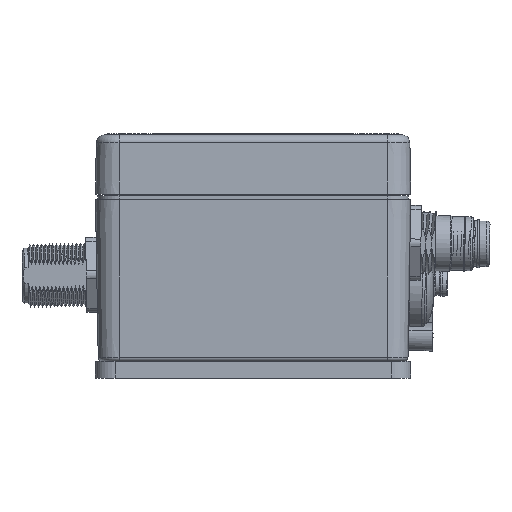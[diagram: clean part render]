
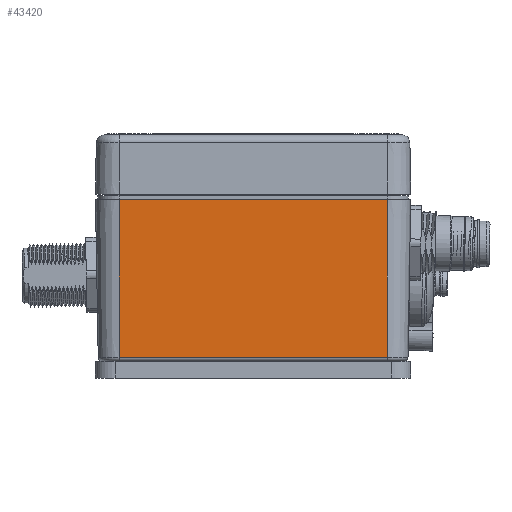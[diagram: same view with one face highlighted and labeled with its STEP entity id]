
A CAD part, left-side view. The second image highlights one B-rep face of the part: STEP entity #43420.
In plain terms, the highlighted planar face has unit normal (-1, 0, -0.018).
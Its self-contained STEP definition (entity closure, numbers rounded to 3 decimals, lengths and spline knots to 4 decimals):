
#2108=LINE('',#65427,#6396);
#2110=LINE('',#65432,#6398);
#2111=LINE('',#65434,#6399);
#2112=LINE('',#65435,#6400);
#6396=VECTOR('',#52488,0.1);
#6398=VECTOR('',#52494,0.1);
#6399=VECTOR('',#52495,0.1);
#6400=VECTOR('',#52496,0.1);
#11153=FACE_OUTER_BOUND('',#13764,.T.);
#13764=EDGE_LOOP('',(#31042,#31043,#31044,#31045));
#18141=VERTEX_POINT('',#65040);
#18268=VERTEX_POINT('',#65423);
#18270=VERTEX_POINT('',#65426);
#18272=VERTEX_POINT('',#65433);
#23041=EDGE_CURVE('',#18270,#18268,#2108,.T.);
#23044=EDGE_CURVE('',#18141,#18268,#2110,.T.);
#23045=EDGE_CURVE('',#18272,#18141,#2111,.T.);
#23046=EDGE_CURVE('',#18272,#18270,#2112,.T.);
#31042=ORIENTED_EDGE('',*,*,#23044,.F.);
#31043=ORIENTED_EDGE('',*,*,#23045,.F.);
#31044=ORIENTED_EDGE('',*,*,#23046,.T.);
#31045=ORIENTED_EDGE('',*,*,#23041,.T.);
#41488=PLANE('',#46568);
#43420=ADVANCED_FACE('',(#11153),#41488,.T.);
#46568=AXIS2_PLACEMENT_3D('',#65431,#52492,#52493);
#52488=DIRECTION('',(0.017,0.,-1.));
#52492=DIRECTION('center_axis',(-1.,0.,
-0.017));
#52493=DIRECTION('ref_axis',(0.,1.,0.));
#52494=DIRECTION('',(0.,1.,0.));
#52495=DIRECTION('',(0.017,0.,-1.));
#52496=DIRECTION('',(0.,1.,0.));
#65040=CARTESIAN_POINT('',(-11.588,-11.4187,-4.1017));
#65423=CARTESIAN_POINT('',(-11.588,-4.6187,-4.1017));
#65426=CARTESIAN_POINT('',(-11.6579,-4.6187,-0.1));
#65427=CARTESIAN_POINT('',(-11.6596,-4.6187,0.));
#65431=CARTESIAN_POINT('Origin',(-11.6596,-8.0187,0.));
#65432=CARTESIAN_POINT('',(-11.588,-8.0187,-4.1017));
#65433=CARTESIAN_POINT('',(-11.6579,-11.4187,-0.1));
#65434=CARTESIAN_POINT('',(-11.6596,-11.4187,0.));
#65435=CARTESIAN_POINT('',(-11.6579,-8.0187,-0.1));
